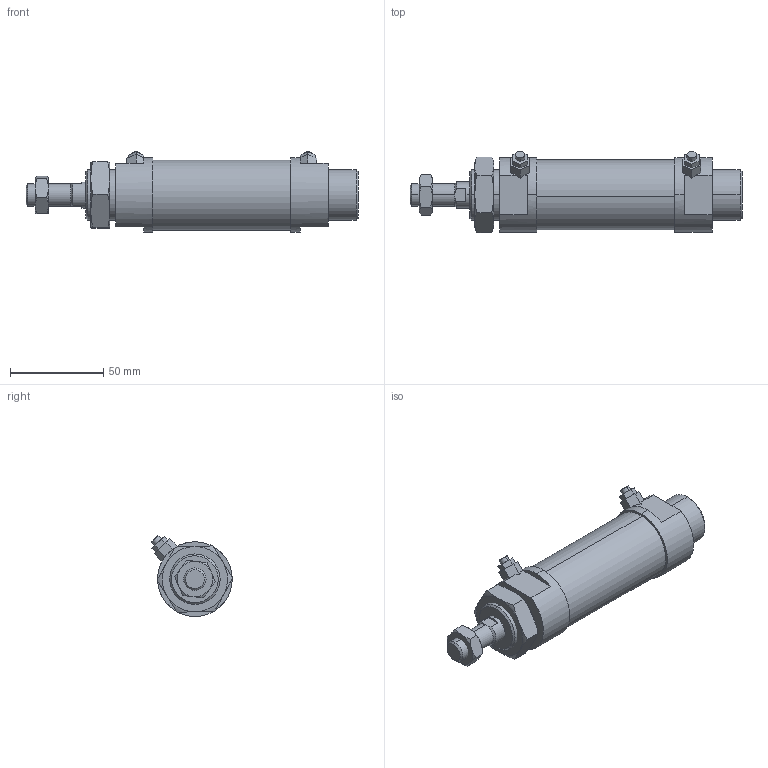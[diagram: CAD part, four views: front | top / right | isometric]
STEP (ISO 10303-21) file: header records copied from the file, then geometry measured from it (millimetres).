
FILE_DESCRIPTION (( 'STEP AP203' ), '1' );
FILE_NAME ('JG2-32-25-N.STEP', '2016-04-19T00:50:47', ( '' ), ( '' ), 'SwSTEP 2.0', 'SolidWorks 2014', '' );
FILE_SCHEMA (( 'CONFIG_CONTROL_DESIGN' ));
Length unit declared in the file: millimetre
Products named in the file (6): JG2-32A; JG2-32-25-N; M12x1.25-7mm; 32-25; JG2-32B; M27x2-10mm
Assembly tree (5 placements, depth 2):
  JG2-32-25-N
    JG2-32B
    32-25
    JG2-32A
    M12x1.25-7mm
    M27x2-10mm
Bounding box: 178 x 43.53 x 43.33 mm (x, y, z)
Volume: 157680.6 mm3; surface area: 30804.6 mm2
Topology: 5 solids, 5 shells, 129 faces, 298 edges, 184 vertices
Faces by surface type: plane 67, cylinder 26, torus 24, cone 12
Entity records: 4690 total; most frequent: CARTESIAN_POINT 1207, DIRECTION 598, ORIENTED_EDGE 588, EDGE_CURVE 294, AXIS2_PLACEMENT_3D 231, VERTEX_POINT 184, EDGE_LOOP 142, LINE 136
